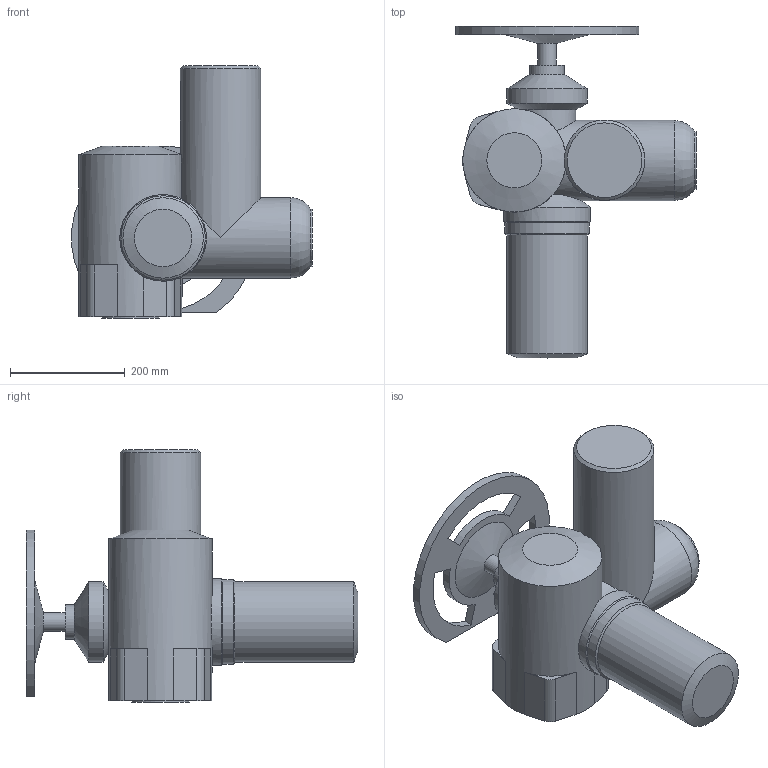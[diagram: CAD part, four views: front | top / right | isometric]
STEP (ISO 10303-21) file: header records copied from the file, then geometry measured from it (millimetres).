
FILE_DESCRIPTION(('STEP AP203'), '1');
FILE_NAME('Ýëåêòðîïðèâîä ÌÒ903.À45 áåç áëîêà óïðàâëåíèÿ', '', ('UNSPECIFIED'), ('UNSPECIFIED'), 'ASCON STEP Converter 1.6', 'ASCON Math Kernel', '');
FILE_SCHEMA(('CONFIG_CONTROL_DESIGN'));
Length unit declared in the file: millimetre
Bounding box: 419.49 x 578 x 440 mm (x, y, z)
Volume: 20774038.9 mm3; surface area: 733449.5 mm2
Topology: 1 solids, 1 shells, 81 faces, 202 edges, 131 vertices
Faces by surface type: plane 39, cylinder 32, cone 9, torus 1
Full cylindrical faces by diameter (mm): 14 x4, 32 x1, 60 x1, 100 x2, 140 x4, 147 x1, 151 x1
Entity records: 3876 total; most frequent: CARTESIAN_POINT 1335, DIRECTION 385, ORIENTED_EDGE 358, EDGE_CURVE 179, AXIS2_PLACEMENT_3D 153, VERTEX_POINT 131, EDGE_LOOP 118, COLOUR_RGB 82
